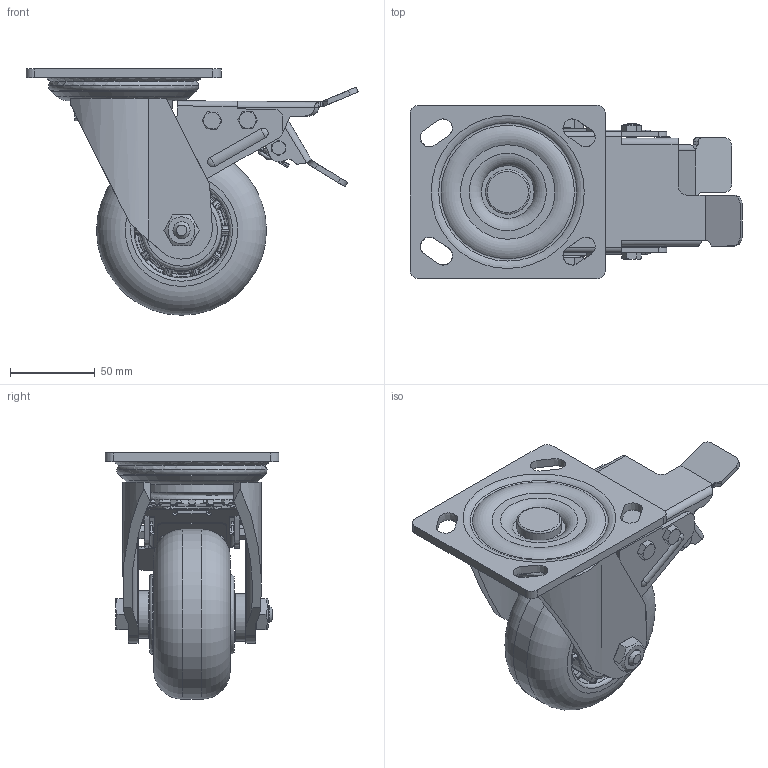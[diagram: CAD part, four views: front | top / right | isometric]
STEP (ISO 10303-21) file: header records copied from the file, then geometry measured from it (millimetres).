
FILE_DESCRIPTION(/* description */ (''),/* implementation_level */ '2;1');
FILE_NAME(/* name */ '35C56_4_F.stp',/* time_stamp */ '2022-10-17T13:05:10+08:00',/* author */ (''),/* organization */ (''),/* preprocessor_version */ 'ST-DEVELOPER v14',/* originating_system */ 'SIEMENS PLM Software NX 8.0',/* authorisation */ '');
FILE_SCHEMA (('AUTOMOTIVE_DESIGN { 1 0 10303 214 3 1 1 1 }'));
Length unit declared in the file: millimetre
Products named in the file (1): 35C56_4_F
Bounding box: 195.33 x 102 x 145 mm (x, y, z)
Volume: 17837.5 mm3; surface area: 169970.6 mm2
Topology: 2 solids, 3 shells, 1475 faces, 3809 edges, 2400 vertices
Faces by surface type: plane 569, bspline 376, cylinder 284, extrusion 108, cone 68, torus 41, sphere 29
Full cylindrical faces by diameter (mm): 4 x2, 4.2 x2, 5 x2, 5.2 x2, 5.997 x19, 6 x2, 6.2 x9, 7.78 x1, 9.78 x2, 10.104 x6, 12 x1, 12.2 x2, 16.2 x1, 16.3 x1, 22.276 x1, 26.256 x1, 28 x2, 30.06 x1, 40 x1, 57 x1, 100 x1
Entity records: 72809 total; most frequent: CARTESIAN_POINT 43519, ORIENTED_EDGE 7004, DIRECTION 4581, EDGE_CURVE 3502, VERTEX_POINT 2256, EDGE_LOOP 1758, AXIS2_PLACEMENT_3D 1642, ADVANCED_FACE 1457
